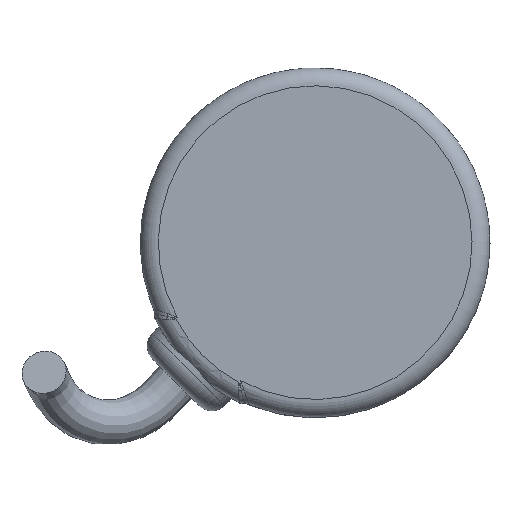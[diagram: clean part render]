
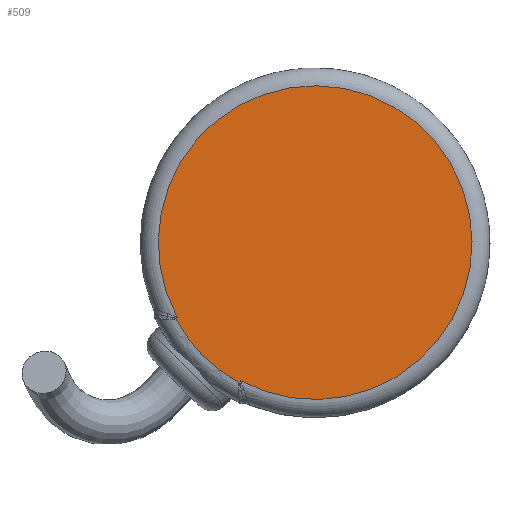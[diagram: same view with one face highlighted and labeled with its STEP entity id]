
A CAD part, top view. The second image highlights one B-rep face of the part: STEP entity #509.
In plain terms, the highlighted planar face has unit normal (0, 0, 1).
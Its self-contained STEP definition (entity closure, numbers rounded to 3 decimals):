
#413=PLANE('',#3294);
#509=ADVANCED_FACE('',(#748),#413,.T.);
#748=FACE_OUTER_BOUND('',#914,.T.);
#914=EDGE_LOOP('',(#1427,#1428,#1429,#1430));
#1281=LINE('',#4655,#1347);
#1282=LINE('',#4659,#1348);
#1347=VECTOR('',#3708,1.);
#1348=VECTOR('',#3711,1.);
#1427=ORIENTED_EDGE('',*,*,#2621,.T.);
#1428=ORIENTED_EDGE('',*,*,#2622,.T.);
#1429=ORIENTED_EDGE('',*,*,#2623,.T.);
#1430=ORIENTED_EDGE('',*,*,#2615,.T.);
#2319=VERTEX_POINT('',#4613);
#2320=VERTEX_POINT('',#4615);
#2323=VERTEX_POINT('',#4656);
#2324=VERTEX_POINT('',#4658);
#2615=EDGE_CURVE('',#2320,#2319,#3060,.T.);
#2621=EDGE_CURVE('',#2319,#2323,#1281,.T.);
#2622=EDGE_CURVE('',#2323,#2324,#3061,.T.);
#2623=EDGE_CURVE('',#2324,#2320,#1282,.T.);
#3060=CIRCLE('',#3291,22.756);
#3061=CIRCLE('',#3293,22.436);
#3291=AXIS2_PLACEMENT_3D('',#4614,#3704,#3705);
#3293=AXIS2_PLACEMENT_3D('',#4657,#3709,#3710);
#3294=AXIS2_PLACEMENT_3D('',#4660,#3712,#3713);
#3704=DIRECTION('',(0.,0.,1.));
#3705=DIRECTION('',(0.707,-0.707,0.));
#3708=DIRECTION('',(0.707,0.707,0.));
#3709=DIRECTION('',(0.,0.,1.));
#3710=DIRECTION('',(0.707,-0.707,0.));
#3711=DIRECTION('',(-0.707,-0.707,0.));
#3712=DIRECTION('',(0.,0.,1.));
#3713=DIRECTION('',(0.707,-0.707,0.));
#4613=CARTESIAN_POINT('',(14.093,5.04,24.026));
#4614=CARTESIAN_POINT('',(25.,25.013,24.026));
#4615=CARTESIAN_POINT('',(5.028,14.106,24.026));
#4655=CARTESIAN_POINT('',(14.993,5.94,24.026));
#4656=CARTESIAN_POINT('',(14.329,5.277,24.026));
#4657=CARTESIAN_POINT('',(25.,25.013,24.026));
#4658=CARTESIAN_POINT('',(5.264,14.342,24.026));
#4659=CARTESIAN_POINT('',(3.725,12.803,24.026));
#4660=CARTESIAN_POINT('',(25.,25.013,24.026));
